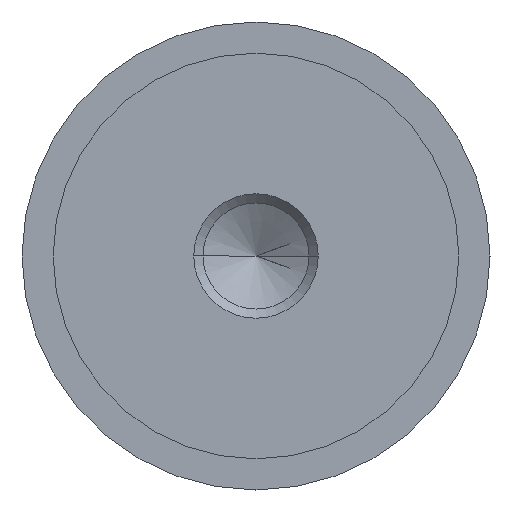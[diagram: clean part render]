
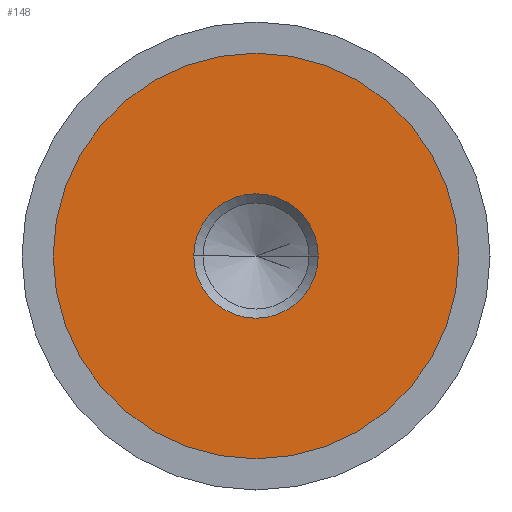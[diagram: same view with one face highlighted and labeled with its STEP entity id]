
A CAD part, left-side view. The second image highlights one B-rep face of the part: STEP entity #148.
In plain terms, the highlighted planar face has unit normal (-1, 0, 0).
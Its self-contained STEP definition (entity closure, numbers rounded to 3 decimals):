
#23 = AXIS2_PLACEMENT_3D ( 'NONE', #595, #673, #256 ) ;
#46 = DIRECTION ( 'NONE',  ( 0., 0., -1. ) ) ;
#78 = DIRECTION ( 'NONE',  ( 0., 0., 1. ) ) ;
#86 = AXIS2_PLACEMENT_3D ( 'NONE', #337, #583, #46 ) ;
#99 = VERTEX_POINT ( 'NONE', #357 ) ;
#117 = CIRCLE ( 'NONE', #623, 13. ) ;
#136 = DIRECTION ( 'NONE',  ( -1., 0., 0. ) ) ;
#144 = AXIS2_PLACEMENT_3D ( 'NONE', #146, #384, #78 ) ;
#146 = CARTESIAN_POINT ( 'NONE',  ( -19.99, 0., 0. ) ) ;
#148 = ADVANCED_FACE ( 'NONE', ( #539, #669 ), #254, .F. ) ;
#175 = CIRCLE ( 'NONE', #144, 13. ) ;
#178 = VERTEX_POINT ( 'NONE', #605 ) ;
#196 = DIRECTION ( 'NONE',  ( 1., 0., 0. ) ) ;
#199 = CIRCLE ( 'NONE', #86, 3.99 ) ;
#222 = ORIENTED_EDGE ( 'NONE', *, *, #531, .T. ) ;
#254 = PLANE ( 'NONE',  #610 ) ;
#256 = DIRECTION ( 'NONE',  ( 0., 0., -1. ) ) ;
#301 = EDGE_LOOP ( 'NONE', ( #752, #628 ) ) ;
#318 = ORIENTED_EDGE ( 'NONE', *, *, #334, .T. ) ;
#333 = VERTEX_POINT ( 'NONE', #680 ) ;
#334 = EDGE_CURVE ( 'NONE', #656, #333, #175, .T. ) ;
#337 = CARTESIAN_POINT ( 'NONE',  ( -19.99, 0., 0. ) ) ;
#357 = CARTESIAN_POINT ( 'NONE',  ( -19.99, -3.99, 0. ) ) ;
#363 = DIRECTION ( 'NONE',  ( 0., 0., -1. ) ) ;
#384 = DIRECTION ( 'NONE',  ( -1., 0., 0. ) ) ;
#392 = EDGE_CURVE ( 'NONE', #99, #178, #199, .T. ) ;
#417 = CARTESIAN_POINT ( 'NONE',  ( -19.99, 13., 0. ) ) ;
#451 = CARTESIAN_POINT ( 'NONE',  ( -19.99, 0., -13. ) ) ;
#495 = DIRECTION ( 'NONE',  ( 0., 0., 1. ) ) ;
#518 = EDGE_LOOP ( 'NONE', ( #222, #318 ) ) ;
#531 = EDGE_CURVE ( 'NONE', #333, #656, #117, .T. ) ;
#539 = FACE_BOUND ( 'NONE', #301, .T. ) ;
#552 = EDGE_CURVE ( 'NONE', #178, #99, #734, .T. ) ;
#583 = DIRECTION ( 'NONE',  ( 1., 0., 0. ) ) ;
#595 = CARTESIAN_POINT ( 'NONE',  ( -19.99, 0., 0. ) ) ;
#605 = CARTESIAN_POINT ( 'NONE',  ( -19.99, 3.99, 0. ) ) ;
#609 = CARTESIAN_POINT ( 'NONE',  ( -19.99, 0., 0. ) ) ;
#610 = AXIS2_PLACEMENT_3D ( 'NONE', #417, #196, #363 ) ;
#623 = AXIS2_PLACEMENT_3D ( 'NONE', #609, #136, #495 ) ;
#628 = ORIENTED_EDGE ( 'NONE', *, *, #552, .T. ) ;
#656 = VERTEX_POINT ( 'NONE', #451 ) ;
#669 = FACE_OUTER_BOUND ( 'NONE', #518, .T. ) ;
#673 = DIRECTION ( 'NONE',  ( 1., 0., 0. ) ) ;
#680 = CARTESIAN_POINT ( 'NONE',  ( -19.99, 0., 13. ) ) ;
#734 = CIRCLE ( 'NONE', #23, 3.99 ) ;
#752 = ORIENTED_EDGE ( 'NONE', *, *, #392, .T. ) ;
